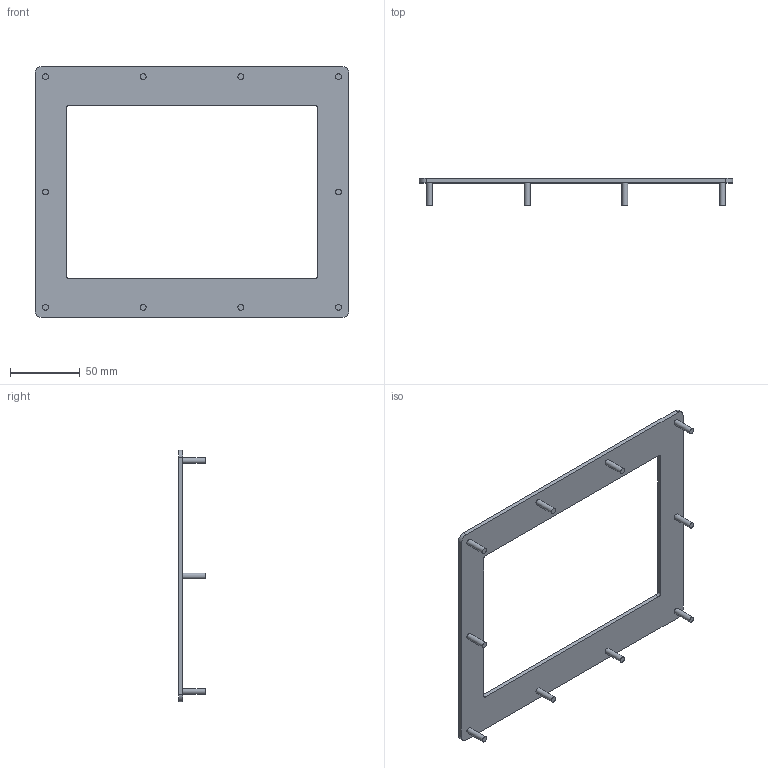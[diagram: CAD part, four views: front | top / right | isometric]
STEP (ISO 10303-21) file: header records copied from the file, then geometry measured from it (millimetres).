
FILE_DESCRIPTION(/* description */ ('Unknown'),/* implementation_level */ '2;1');
FILE_NAME(/* name */ 'G3AD0607',/* time_stamp */ '2021-04-21T09:37:07-04:00',/* author */ ('Unknown'),/* organization */ ('Unknown'),/* preprocessor_version */ 'ST-DEVELOPER v16.7',/* originating_system */ 'DEX',/* authorisation */ $);
FILE_SCHEMA (('AUTOMOTIVE_DESIGN {1 0 10303 214 3 1 1}'));
Length unit declared in the file: millimetre
Products named in the file (3): G3AD0607; G3AD0607-panel; FH-832-12
Assembly tree (11 placements, depth 2):
  G3AD0607
    G3AD0607-panel
    FH-832-12  x10
Bounding box: 224.28 x 19.05 x 179.83 mm (x, y, z)
Volume: 57785.9 mm3; surface area: 43827.2 mm2
Topology: 11 solids, 11 shells, 78 faces, 148 edges, 102 vertices
Faces by surface type: plane 40, cylinder 38
Full cylindrical faces by diameter (mm): 3.414 x10, 4.166 x10, 6.02 x10
Entity records: 1179 total; most frequent: DIRECTION 202, CARTESIAN_POINT 173, ORIENTED_EDGE 144, AXIS2_PLACEMENT_3D 85, EDGE_CURVE 72, EDGE_LOOP 68, FACE_BOUND 68, VERTEX_POINT 56
